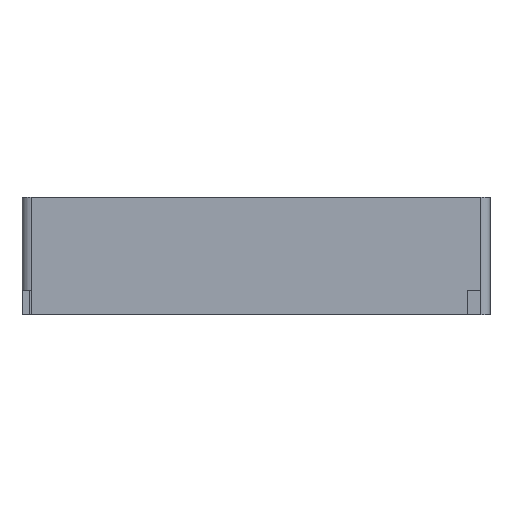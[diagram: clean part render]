
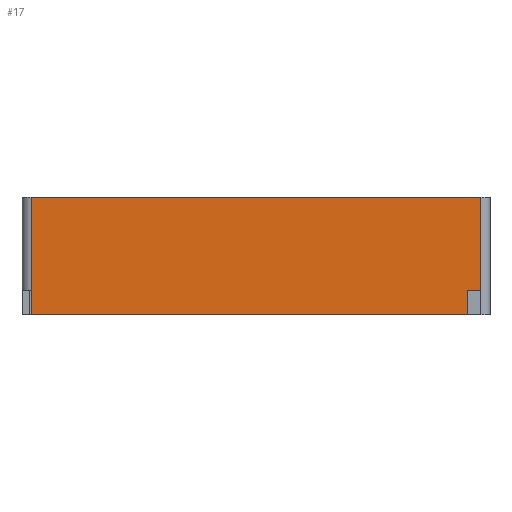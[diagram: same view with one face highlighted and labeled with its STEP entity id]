
A CAD part, left-side view. The second image highlights one B-rep face of the part: STEP entity #17.
In plain terms, the highlighted planar face has unit normal (-1, 0, 0).
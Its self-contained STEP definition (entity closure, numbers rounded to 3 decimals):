
#17 = ADVANCED_FACE('',(#18),#32,.F.);
#18 = FACE_BOUND('',#19,.F.);
#19 = EDGE_LOOP('',(#20,#55,#83,#111,#138,#166,#194));
#20 = ORIENTED_EDGE('',*,*,#21,.F.);
#21 = EDGE_CURVE('',#22,#24,#26,.T.);
#22 = VERTEX_POINT('',#23);
#23 = CARTESIAN_POINT('',(-11.25,-2.6,62.7));
#24 = VERTEX_POINT('',#25);
#25 = CARTESIAN_POINT('',(-11.25,96.,62.7));
#26 = SURFACE_CURVE('',#27,(#31,#43),.PCURVE_S1.);
#27 = LINE('',#28,#29);
#28 = CARTESIAN_POINT('',(-11.25,-4.6,62.7));
#29 = VECTOR('',#30,1.);
#30 = DIRECTION('',(0.,1.,0.));
#31 = PCURVE('',#32,#37);
#32 = PLANE('',#33);
#33 = AXIS2_PLACEMENT_3D('',#34,#35,#36);
#34 = CARTESIAN_POINT('',(-11.25,-4.6,42.3));
#35 = DIRECTION('',(1.,0.,0.));
#36 = DIRECTION('',(0.,0.,1.));
#37 = DEFINITIONAL_REPRESENTATION('',(#38),#42);
#38 = LINE('',#39,#40);
#39 = CARTESIAN_POINT('',(20.4,0.));
#40 = VECTOR('',#41,1.);
#41 = DIRECTION('',(0.,-1.));
#42 = ( GEOMETRIC_REPRESENTATION_CONTEXT(2) 
PARAMETRIC_REPRESENTATION_CONTEXT() REPRESENTATION_CONTEXT('2D SPACE',''
  ) );
#43 = PCURVE('',#44,#49);
#44 = PLANE('',#45);
#45 = AXIS2_PLACEMENT_3D('',#46,#47,#48);
#46 = CARTESIAN_POINT('',(-11.25,-4.6,62.7));
#47 = DIRECTION('',(0.,0.,1.));
#48 = DIRECTION('',(1.,0.,0.));
#49 = DEFINITIONAL_REPRESENTATION('',(#50),#54);
#50 = LINE('',#51,#52);
#51 = CARTESIAN_POINT('',(0.,0.));
#52 = VECTOR('',#53,1.);
#53 = DIRECTION('',(0.,1.));
#54 = ( GEOMETRIC_REPRESENTATION_CONTEXT(2) 
PARAMETRIC_REPRESENTATION_CONTEXT() REPRESENTATION_CONTEXT('2D SPACE',''
  ) );
#55 = ORIENTED_EDGE('',*,*,#56,.F.);
#56 = EDGE_CURVE('',#57,#22,#59,.T.);
#57 = VERTEX_POINT('',#58);
#58 = CARTESIAN_POINT('',(-11.25,-2.6,42.3));
#59 = SURFACE_CURVE('',#60,(#64,#71),.PCURVE_S1.);
#60 = LINE('',#61,#62);
#61 = CARTESIAN_POINT('',(-11.25,-2.6,42.3));
#62 = VECTOR('',#63,1.);
#63 = DIRECTION('',(0.,0.,1.));
#64 = PCURVE('',#32,#65);
#65 = DEFINITIONAL_REPRESENTATION('',(#66),#70);
#66 = LINE('',#67,#68);
#67 = CARTESIAN_POINT('',(0.,-2.));
#68 = VECTOR('',#69,1.);
#69 = DIRECTION('',(1.,0.));
#70 = ( GEOMETRIC_REPRESENTATION_CONTEXT(2) 
PARAMETRIC_REPRESENTATION_CONTEXT() REPRESENTATION_CONTEXT('2D SPACE',''
  ) );
#71 = PCURVE('',#72,#77);
#72 = CYLINDRICAL_SURFACE('',#73,2.);
#73 = AXIS2_PLACEMENT_3D('',#74,#75,#76);
#74 = CARTESIAN_POINT('',(-9.25,-2.6,42.3));
#75 = DIRECTION('',(0.,0.,1.));
#76 = DIRECTION('',(-1.,-0.,0.));
#77 = DEFINITIONAL_REPRESENTATION('',(#78),#82);
#78 = LINE('',#79,#80);
#79 = CARTESIAN_POINT('',(0.,0.));
#80 = VECTOR('',#81,1.);
#81 = DIRECTION('',(0.,1.));
#82 = ( GEOMETRIC_REPRESENTATION_CONTEXT(2) 
PARAMETRIC_REPRESENTATION_CONTEXT() REPRESENTATION_CONTEXT('2D SPACE',''
  ) );
#83 = ORIENTED_EDGE('',*,*,#84,.T.);
#84 = EDGE_CURVE('',#57,#85,#87,.T.);
#85 = VERTEX_POINT('',#86);
#86 = CARTESIAN_POINT('',(-11.25,0.4,42.3));
#87 = SURFACE_CURVE('',#88,(#92,#99),.PCURVE_S1.);
#88 = LINE('',#89,#90);
#89 = CARTESIAN_POINT('',(-11.25,-4.6,42.3));
#90 = VECTOR('',#91,1.);
#91 = DIRECTION('',(0.,1.,0.));
#92 = PCURVE('',#32,#93);
#93 = DEFINITIONAL_REPRESENTATION('',(#94),#98);
#94 = LINE('',#95,#96);
#95 = CARTESIAN_POINT('',(0.,0.));
#96 = VECTOR('',#97,1.);
#97 = DIRECTION('',(0.,-1.));
#98 = ( GEOMETRIC_REPRESENTATION_CONTEXT(2) 
PARAMETRIC_REPRESENTATION_CONTEXT() REPRESENTATION_CONTEXT('2D SPACE',''
  ) );
#99 = PCURVE('',#100,#105);
#100 = PLANE('',#101);
#101 = AXIS2_PLACEMENT_3D('',#102,#103,#104);
#102 = CARTESIAN_POINT('',(-11.25,-4.6,42.3));
#103 = DIRECTION('',(0.,0.,1.));
#104 = DIRECTION('',(1.,0.,0.));
#105 = DEFINITIONAL_REPRESENTATION('',(#106),#110);
#106 = LINE('',#107,#108);
#107 = CARTESIAN_POINT('',(0.,0.));
#108 = VECTOR('',#109,1.);
#109 = DIRECTION('',(0.,1.));
#110 = ( GEOMETRIC_REPRESENTATION_CONTEXT(2) 
PARAMETRIC_REPRESENTATION_CONTEXT() REPRESENTATION_CONTEXT('2D SPACE',''
  ) );
#111 = ORIENTED_EDGE('',*,*,#112,.F.);
#112 = EDGE_CURVE('',#113,#85,#115,.T.);
#113 = VERTEX_POINT('',#114);
#114 = CARTESIAN_POINT('',(-11.25,0.4,36.9));
#115 = SURFACE_CURVE('',#116,(#120,#127),.PCURVE_S1.);
#116 = LINE('',#117,#118);
#117 = CARTESIAN_POINT('',(-11.25,0.4,36.85));
#118 = VECTOR('',#119,1.);
#119 = DIRECTION('',(0.,0.,1.));
#120 = PCURVE('',#32,#121);
#121 = DEFINITIONAL_REPRESENTATION('',(#122),#126);
#122 = LINE('',#123,#124);
#123 = CARTESIAN_POINT('',(-5.45,-5.));
#124 = VECTOR('',#125,1.);
#125 = DIRECTION('',(1.,0.));
#126 = ( GEOMETRIC_REPRESENTATION_CONTEXT(2) 
PARAMETRIC_REPRESENTATION_CONTEXT() REPRESENTATION_CONTEXT('2D SPACE',''
  ) );
#127 = PCURVE('',#128,#133);
#128 = PLANE('',#129);
#129 = AXIS2_PLACEMENT_3D('',#130,#131,#132);
#130 = CARTESIAN_POINT('',(-12.25,0.4,36.8));
#131 = DIRECTION('',(0.,1.,0.));
#132 = DIRECTION('',(0.,0.,1.));
#133 = DEFINITIONAL_REPRESENTATION('',(#134),#137);
#134 = B_SPLINE_CURVE_WITH_KNOTS('',1,(#135,#136),.UNSPECIFIED.,.F.,.F.,
  (2,2),(0.05,5.45),.PIECEWISE_BEZIER_KNOTS.);
#135 = CARTESIAN_POINT('',(0.1,1.));
#136 = CARTESIAN_POINT('',(5.5,1.));
#137 = ( GEOMETRIC_REPRESENTATION_CONTEXT(2) 
PARAMETRIC_REPRESENTATION_CONTEXT() REPRESENTATION_CONTEXT('2D SPACE',''
  ) );
#138 = ORIENTED_EDGE('',*,*,#139,.F.);
#139 = EDGE_CURVE('',#140,#113,#142,.T.);
#140 = VERTEX_POINT('',#141);
#141 = CARTESIAN_POINT('',(-11.25,96.,36.9));
#142 = SURFACE_CURVE('',#143,(#147,#154),.PCURVE_S1.);
#143 = LINE('',#144,#145);
#144 = CARTESIAN_POINT('',(-11.25,98.,36.9));
#145 = VECTOR('',#146,1.);
#146 = DIRECTION('',(0.,-1.,0.));
#147 = PCURVE('',#32,#148);
#148 = DEFINITIONAL_REPRESENTATION('',(#149),#153);
#149 = LINE('',#150,#151);
#150 = CARTESIAN_POINT('',(-5.4,-102.6));
#151 = VECTOR('',#152,1.);
#152 = DIRECTION('',(0.,1.));
#153 = ( GEOMETRIC_REPRESENTATION_CONTEXT(2) 
PARAMETRIC_REPRESENTATION_CONTEXT() REPRESENTATION_CONTEXT('2D SPACE',''
  ) );
#154 = PCURVE('',#155,#160);
#155 = PLANE('',#156);
#156 = AXIS2_PLACEMENT_3D('',#157,#158,#159);
#157 = CARTESIAN_POINT('',(-11.25,-4.6,36.9));
#158 = DIRECTION('',(0.,0.,1.));
#159 = DIRECTION('',(1.,0.,0.));
#160 = DEFINITIONAL_REPRESENTATION('',(#161),#165);
#161 = LINE('',#162,#163);
#162 = CARTESIAN_POINT('',(0.,102.6));
#163 = VECTOR('',#164,1.);
#164 = DIRECTION('',(0.,-1.));
#165 = ( GEOMETRIC_REPRESENTATION_CONTEXT(2) 
PARAMETRIC_REPRESENTATION_CONTEXT() REPRESENTATION_CONTEXT('2D SPACE',''
  ) );
#166 = ORIENTED_EDGE('',*,*,#167,.T.);
#167 = EDGE_CURVE('',#140,#168,#170,.T.);
#168 = VERTEX_POINT('',#169);
#169 = CARTESIAN_POINT('',(-11.25,96.,42.3));
#170 = SURFACE_CURVE('',#171,(#175,#182),.PCURVE_S1.);
#171 = LINE('',#172,#173);
#172 = CARTESIAN_POINT('',(-11.25,96.,35.9));
#173 = VECTOR('',#174,1.);
#174 = DIRECTION('',(0.,0.,1.));
#175 = PCURVE('',#32,#176);
#176 = DEFINITIONAL_REPRESENTATION('',(#177),#181);
#177 = LINE('',#178,#179);
#178 = CARTESIAN_POINT('',(-6.4,-100.6));
#179 = VECTOR('',#180,1.);
#180 = DIRECTION('',(1.,0.));
#181 = ( GEOMETRIC_REPRESENTATION_CONTEXT(2) 
PARAMETRIC_REPRESENTATION_CONTEXT() REPRESENTATION_CONTEXT('2D SPACE',''
  ) );
#182 = PCURVE('',#183,#188);
#183 = PLANE('',#184);
#184 = AXIS2_PLACEMENT_3D('',#185,#186,#187);
#185 = CARTESIAN_POINT('',(-12.25,96.,36.8));
#186 = DIRECTION('',(0.,1.,0.));
#187 = DIRECTION('',(0.,0.,1.));
#188 = DEFINITIONAL_REPRESENTATION('',(#189),#193);
#189 = LINE('',#190,#191);
#190 = CARTESIAN_POINT('',(-0.9,1.));
#191 = VECTOR('',#192,1.);
#192 = DIRECTION('',(1.,0.));
#193 = ( GEOMETRIC_REPRESENTATION_CONTEXT(2) 
PARAMETRIC_REPRESENTATION_CONTEXT() REPRESENTATION_CONTEXT('2D SPACE',''
  ) );
#194 = ORIENTED_EDGE('',*,*,#195,.F.);
#195 = EDGE_CURVE('',#24,#168,#196,.T.);
#196 = SURFACE_CURVE('',#197,(#201,#208),.PCURVE_S1.);
#197 = LINE('',#198,#199);
#198 = CARTESIAN_POINT('',(-11.25,96.,62.7));
#199 = VECTOR('',#200,1.);
#200 = DIRECTION('',(0.,0.,-1.));
#201 = PCURVE('',#32,#202);
#202 = DEFINITIONAL_REPRESENTATION('',(#203),#207);
#203 = LINE('',#204,#205);
#204 = CARTESIAN_POINT('',(20.4,-100.6));
#205 = VECTOR('',#206,1.);
#206 = DIRECTION('',(-1.,0.));
#207 = ( GEOMETRIC_REPRESENTATION_CONTEXT(2) 
PARAMETRIC_REPRESENTATION_CONTEXT() REPRESENTATION_CONTEXT('2D SPACE',''
  ) );
#208 = PCURVE('',#209,#214);
#209 = CYLINDRICAL_SURFACE('',#210,2.);
#210 = AXIS2_PLACEMENT_3D('',#211,#212,#213);
#211 = CARTESIAN_POINT('',(-9.25,96.,42.3));
#212 = DIRECTION('',(0.,0.,1.));
#213 = DIRECTION('',(-1.,-0.,0.));
#214 = DEFINITIONAL_REPRESENTATION('',(#215),#219);
#215 = LINE('',#216,#217);
#216 = CARTESIAN_POINT('',(-0.,20.4));
#217 = VECTOR('',#218,1.);
#218 = DIRECTION('',(-0.,-1.));
#219 = ( GEOMETRIC_REPRESENTATION_CONTEXT(2) 
PARAMETRIC_REPRESENTATION_CONTEXT() REPRESENTATION_CONTEXT('2D SPACE',''
  ) );
